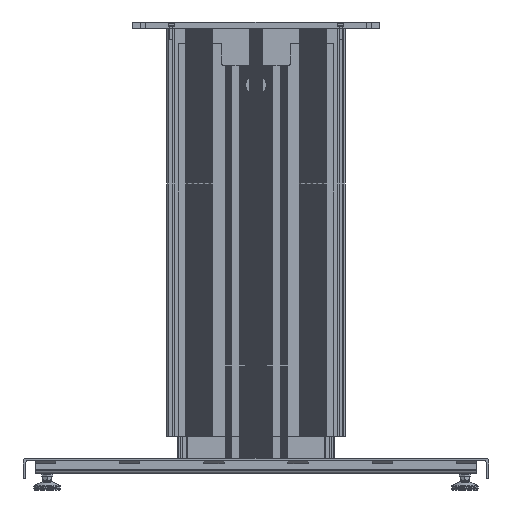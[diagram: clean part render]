
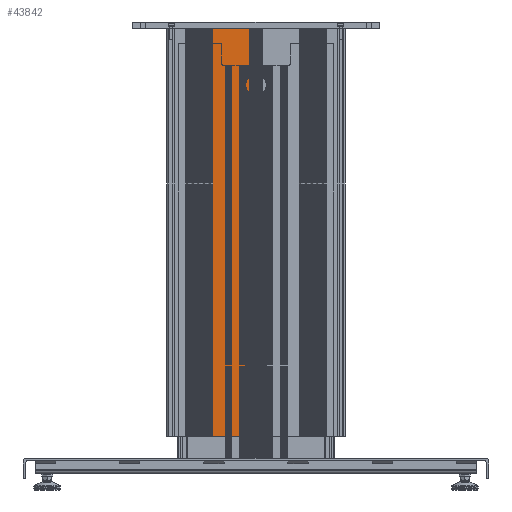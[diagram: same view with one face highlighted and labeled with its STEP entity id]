
A CAD part, front view. The second image highlights one B-rep face of the part: STEP entity #43842.
In plain terms, the highlighted planar face has unit normal (0, -1, 0) as drawn and (0, 0, -1) by its records, which use the part's own axes.
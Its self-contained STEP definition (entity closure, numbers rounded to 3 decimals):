
#9003=ORIENTED_EDGE('',*,*,#19241,.T.);
#9004=ORIENTED_EDGE('',*,*,#19242,.F.);
#9005=ORIENTED_EDGE('',*,*,#19243,.F.);
#9006=ORIENTED_EDGE('',*,*,#19244,.T.);
#19241=EDGE_CURVE('',#24831,#24832,#29250,.T.);
#19242=EDGE_CURVE('',#24833,#24832,#29251,.T.);
#19243=EDGE_CURVE('',#24834,#24833,#29252,.T.);
#19244=EDGE_CURVE('',#24834,#24831,#29253,.T.);
#24831=VERTEX_POINT('',#77100);
#24832=VERTEX_POINT('',#77101);
#24833=VERTEX_POINT('',#77103);
#24834=VERTEX_POINT('',#77105);
#29250=LINE('',#77099,#33731);
#29251=LINE('',#77102,#33732);
#29252=LINE('',#77104,#33733);
#29253=LINE('',#77106,#33734);
#33731=VECTOR('',#63395,1000.);
#33732=VECTOR('',#63396,1000.);
#33733=VECTOR('',#63397,1000.);
#33734=VECTOR('',#63398,1000.);
#37137=EDGE_LOOP('',(#9003,#9004,#9005,#9006));
#39749=FACE_BOUND('',#37137,.T.);
#42036=PLANE('',#55428);
#43842=ADVANCED_FACE('',(#39749),#42036,.T.);
#55428=AXIS2_PLACEMENT_3D('',#77098,#63393,#63394);
#63393=DIRECTION('',(0.,0.,-1.));
#63394=DIRECTION('',(-1.,0.,0.));
#63395=DIRECTION('',(0.,-1.,0.));
#63396=DIRECTION('',(1.,0.,0.));
#63397=DIRECTION('',(0.,-1.,0.));
#63398=DIRECTION('',(1.,0.,0.));
#77098=CARTESIAN_POINT('',(-130.,595.,-20.));
#77099=CARTESIAN_POINT('',(62.9,650.557,-20.));
#77100=CARTESIAN_POINT('',(62.9,595.,-20.));
#77101=CARTESIAN_POINT('',(62.9,0.,-20.));
#77102=CARTESIAN_POINT('',(-130.,0.,-20.));
#77103=CARTESIAN_POINT('',(9.2,0.,-20.));
#77104=CARTESIAN_POINT('',(9.2,650.557,-20.));
#77105=CARTESIAN_POINT('',(9.2,595.,-20.));
#77106=CARTESIAN_POINT('',(-130.,595.,-20.));
